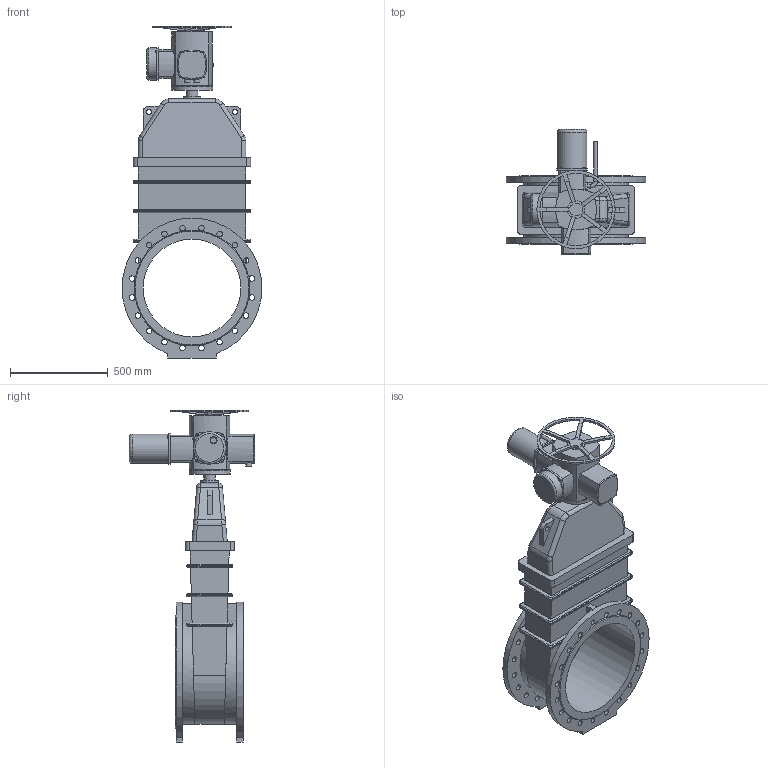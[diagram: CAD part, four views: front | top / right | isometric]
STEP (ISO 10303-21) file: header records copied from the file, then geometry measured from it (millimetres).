
FILE_DESCRIPTION(('STEP AP203'), '1');
FILE_NAME('青溻桄赅 47GVA DN500 PN10+MT903.Z45', '', ('UNSPECIFIED'), ('UNSPECIFIED'), 'ASCON STEP Converter 1.6', 'ASCON Math Kernel', '');
FILE_SCHEMA(('CONFIG_CONTROL_DESIGN'));
Length unit declared in the file: millimetre
Bounding box: 714.99 x 640 x 1696.5 mm (x, y, z)
Volume: 117702507 mm3; surface area: 4166362 mm2
Topology: 2 solids, 2 shells, 412 faces, 1012 edges, 640 vertices
Faces by surface type: cylinder 190, plane 162, bspline 34, torus 19, cone 7
Full cylindrical faces by diameter (mm): 12 x8, 17.294 x4, 20 x2, 22 x4, 25 x2, 28 x40, 29.22 x1, 30 x2, 36 x1, 40 x1, 48 x1, 60 x1, 90 x2, 130 x2, 150 x1, 165 x1, 210 x2, 400 x1, 500 x1
Entity records: 19846 total; most frequent: CARTESIAN_POINT 7130, DIRECTION 1907, ORIENTED_EDGE 1812, EDGE_CURVE 906, AXIS2_PLACEMENT_3D 744, EDGE_LOOP 652, VERTEX_POINT 634, FACE_BOUND 458
